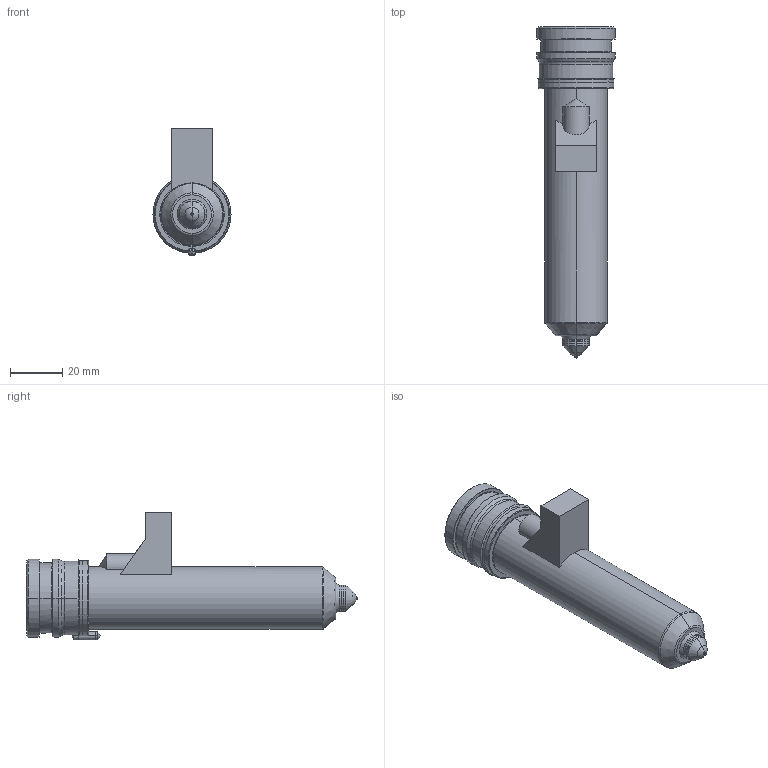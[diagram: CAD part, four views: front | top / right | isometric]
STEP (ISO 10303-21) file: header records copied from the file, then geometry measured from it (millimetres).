
FILE_DESCRIPTION((''),'2;1');
FILE_NAME('MPN-10-29-VX10-106-M','2026-02-05T12:56:53',('UPTIO'),('Thermoplay S.p.A.'),'CREO PARAMETRIC BY PTC INC, 2023494','CREO PARAMETRIC BY PTC INC, 2023494','');
FILE_SCHEMA(('CONFIG_CONTROL_DESIGN','SHAPE_APPEARANCE_LAYERS_GROUPS'));
Length unit declared in the file: millimetre
Products named in the file (1): MPN-10-29-VX10-106-M
Bounding box: 30 x 127.5 x 49 mm (x, y, z)
Volume: 40029.6 mm3; surface area: 41261.9 mm2
Topology: 3 solids, 5 shells, 547 faces, 1387 edges, 846 vertices
Faces by surface type: cylinder 179, plane 147, torus 71, bspline 70, cone 68, sphere 8, extrusion 4
Entity records: 26691 total; most frequent: CARTESIAN_POINT 10726, ORIENTED_EDGE 2760, DIRECTION 2638, EDGE_CURVE 1380, AXIS2_PLACEMENT_3D 1050, VERTEX_POINT 846, EDGE_LOOP 576, CIRCLE 576
